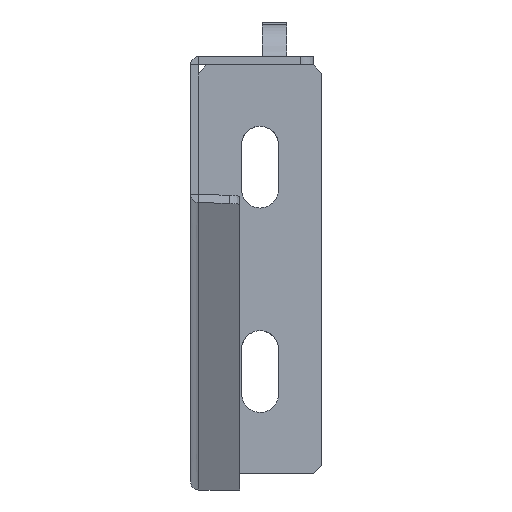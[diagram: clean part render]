
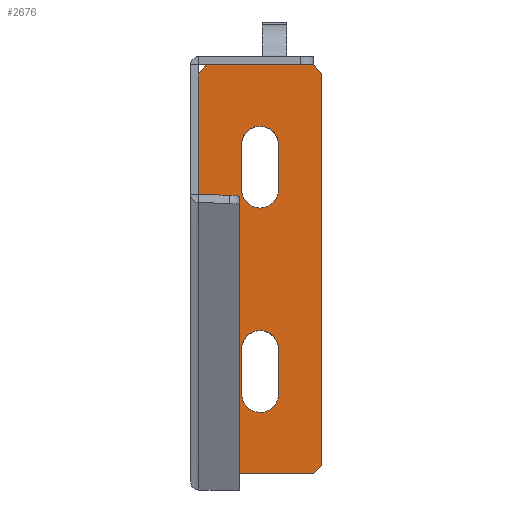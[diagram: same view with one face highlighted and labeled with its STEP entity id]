
A CAD part, front view. The second image highlights one B-rep face of the part: STEP entity #2676.
In plain terms, the highlighted planar face has unit normal (0, -1, 0).
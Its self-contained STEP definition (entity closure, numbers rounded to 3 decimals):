
#29=FACE_BOUND($,#3055,.T.);
#30=FACE_BOUND($,#3056,.T.);
#708=(
BOUNDED_CURVE()
B_SPLINE_CURVE(2,(#15400,#15401,#15402,#15403,#15404,#15405,#15406,#15407,
#15408,#15409,#15410,#15411,#15412),.UNSPECIFIED.,.T.,.F.)
B_SPLINE_CURVE_WITH_KNOTS((3,2,2,2,2,2,3),(-39.274,-32.206,
-25.137,-14.137,-7.069,0.,11.),.UNSPECIFIED.)
CURVE()
GEOMETRIC_REPRESENTATION_ITEM()
RATIONAL_B_SPLINE_CURVE((1.,0.707,1.,0.707,1.,1.,
1.,0.707,1.,0.707,1.,1.,1.))
REPRESENTATION_ITEM($)
);
#709=(
BOUNDED_CURVE()
B_SPLINE_CURVE(2,(#15413,#15414,#15415,#15416,#15417,#15418,#15419,#15420,
#15421,#15422,#15423,#15424,#15425),.UNSPECIFIED.,.T.,.F.)
B_SPLINE_CURVE_WITH_KNOTS((3,2,2,2,2,2,3),(-39.274,-32.206,
-25.137,-14.137,-7.069,0.,11.),.UNSPECIFIED.)
CURVE()
GEOMETRIC_REPRESENTATION_ITEM()
RATIONAL_B_SPLINE_CURVE((1.,0.707,1.,0.707,1.,1.,
1.,0.707,1.,0.707,1.,1.,1.))
REPRESENTATION_ITEM($)
);
#2676=ADVANCED_FACE($,(#2856,#29,#30),#6049,.T.);
#2856=FACE_OUTER_BOUND($,#3054,.T.);
#3054=EDGE_LOOP($,(#4009,#4010,#4011,#4012,#4013,#4014,#4015,#4016));
#3055=EDGE_LOOP($,(#4017));
#3056=EDGE_LOOP($,(#4018));
#4009=ORIENTED_EDGE($,*,*,#4993,.T.);
#4010=ORIENTED_EDGE($,*,*,#5002,.T.);
#4011=ORIENTED_EDGE($,*,*,#5001,.T.);
#4012=ORIENTED_EDGE($,*,*,#5000,.T.);
#4013=ORIENTED_EDGE($,*,*,#4999,.T.);
#4014=ORIENTED_EDGE($,*,*,#4998,.T.);
#4015=ORIENTED_EDGE($,*,*,#4997,.T.);
#4016=ORIENTED_EDGE($,*,*,#4996,.T.);
#4017=ORIENTED_EDGE($,*,*,#4994,.T.);
#4018=ORIENTED_EDGE($,*,*,#4995,.T.);
#4993=EDGE_CURVE($,#5973,#5982,#6454,.T.);
#4994=EDGE_CURVE($,#5974,#5974,#708,.T.);
#4995=EDGE_CURVE($,#5975,#5975,#709,.T.);
#4996=EDGE_CURVE($,#5976,#5973,#6455,.T.);
#4997=EDGE_CURVE($,#5977,#5976,#6456,.T.);
#4998=EDGE_CURVE($,#5978,#5977,#6457,.T.);
#4999=EDGE_CURVE($,#5979,#5978,#6458,.T.);
#5000=EDGE_CURVE($,#5980,#5979,#6459,.T.);
#5001=EDGE_CURVE($,#5981,#5980,#6460,.T.);
#5002=EDGE_CURVE($,#5982,#5981,#6461,.T.);
#5973=VERTEX_POINT($,#15441);
#5974=VERTEX_POINT($,#15442);
#5975=VERTEX_POINT($,#15443);
#5976=VERTEX_POINT($,#15444);
#5977=VERTEX_POINT($,#15445);
#5978=VERTEX_POINT($,#15446);
#5979=VERTEX_POINT($,#15447);
#5980=VERTEX_POINT($,#15448);
#5981=VERTEX_POINT($,#15449);
#5982=VERTEX_POINT($,#15450);
#6049=PLANE($,#6542);
#6454=B_SPLINE_CURVE_WITH_KNOTS($,1,(#15398,#15399),.UNSPECIFIED.,.F.,.F.,
(2,2),(0.,2.828),.UNSPECIFIED.);
#6455=B_SPLINE_CURVE_WITH_KNOTS($,1,(#15426,#15427),.UNSPECIFIED.,.F.,.F.,
(2,2),(229.314,255.314),.UNSPECIFIED.);
#6456=B_SPLINE_CURVE_WITH_KNOTS($,1,(#15428,#15429),.UNSPECIFIED.,.F.,.F.,
(2,2),(226.485,229.314),.UNSPECIFIED.);
#6457=B_SPLINE_CURVE_WITH_KNOTS($,1,(#15430,#15431),.UNSPECIFIED.,.F.,.F.,
(2,2),(130.485,226.485),.UNSPECIFIED.);
#6458=B_SPLINE_CURVE_WITH_KNOTS($,1,(#15432,#15433),.UNSPECIFIED.,.F.,.F.,
(2,2),(127.657,130.485),.UNSPECIFIED.);
#6459=B_SPLINE_CURVE_WITH_KNOTS($,1,(#15434,#15435),.UNSPECIFIED.,.F.,.F.,
(2,2),(101.657,127.657),.UNSPECIFIED.);
#6460=B_SPLINE_CURVE_WITH_KNOTS($,1,(#15436,#15437),.UNSPECIFIED.,.F.,.F.,
(2,2),(98.828,101.657),.UNSPECIFIED.);
#6461=B_SPLINE_CURVE_WITH_KNOTS($,1,(#15438,#15439),.UNSPECIFIED.,.F.,.F.,
(2,2),(2.828,98.828),.UNSPECIFIED.);
#6542=AXIS2_PLACEMENT_3D($,#15440,#6592,$);
#6592=DIRECTION($,(0.,-1.,0.));
#15398=CARTESIAN_POINT($,(-12.,-5.,-2.));
#15399=CARTESIAN_POINT($,(-14.,-5.,-4.));
#15400=CARTESIAN_POINT($,(5.5,-5.,-82.5));
#15401=CARTESIAN_POINT($,(5.5,-5.,-87.));
#15402=CARTESIAN_POINT($,(1.,-5.,-87.));
#15403=CARTESIAN_POINT($,(-3.5,-5.,-87.));
#15404=CARTESIAN_POINT($,(-3.5,-5.,-82.5));
#15405=CARTESIAN_POINT($,(-3.5,-5.,-77.));
#15406=CARTESIAN_POINT($,(-3.5,-5.,-71.5));
#15407=CARTESIAN_POINT($,(-3.5,-5.,-67.));
#15408=CARTESIAN_POINT($,(1.,-5.,-67.));
#15409=CARTESIAN_POINT($,(5.5,-5.,-67.));
#15410=CARTESIAN_POINT($,(5.5,-5.,-71.5));
#15411=CARTESIAN_POINT($,(5.5,-5.,-77.));
#15412=CARTESIAN_POINT($,(5.5,-5.,-82.5));
#15413=CARTESIAN_POINT($,(5.5,-5.,-32.5));
#15414=CARTESIAN_POINT($,(5.5,-5.,-37.));
#15415=CARTESIAN_POINT($,(1.,-5.,-37.));
#15416=CARTESIAN_POINT($,(-3.5,-5.,-37.));
#15417=CARTESIAN_POINT($,(-3.5,-5.,-32.5));
#15418=CARTESIAN_POINT($,(-3.5,-5.,-27.));
#15419=CARTESIAN_POINT($,(-3.5,-5.,-21.5));
#15420=CARTESIAN_POINT($,(-3.5,-5.,-17.));
#15421=CARTESIAN_POINT($,(1.,-5.,-17.));
#15422=CARTESIAN_POINT($,(5.5,-5.,-17.));
#15423=CARTESIAN_POINT($,(5.5,-5.,-21.5));
#15424=CARTESIAN_POINT($,(5.5,-5.,-27.));
#15425=CARTESIAN_POINT($,(5.5,-5.,-32.5));
#15426=CARTESIAN_POINT($,(14.,-5.,-2.));
#15427=CARTESIAN_POINT($,(-12.,-5.,-2.));
#15428=CARTESIAN_POINT($,(16.,-5.,-4.));
#15429=CARTESIAN_POINT($,(14.,-5.,-2.));
#15430=CARTESIAN_POINT($,(16.,-5.,-100.));
#15431=CARTESIAN_POINT($,(16.,-5.,-4.));
#15432=CARTESIAN_POINT($,(14.,-5.,-102.));
#15433=CARTESIAN_POINT($,(16.,-5.,-100.));
#15434=CARTESIAN_POINT($,(-12.,-5.,-102.));
#15435=CARTESIAN_POINT($,(14.,-5.,-102.));
#15436=CARTESIAN_POINT($,(-14.,-5.,-100.));
#15437=CARTESIAN_POINT($,(-12.,-5.,-102.));
#15438=CARTESIAN_POINT($,(-14.,-5.,-4.));
#15439=CARTESIAN_POINT($,(-14.,-5.,-100.));
#15440=CARTESIAN_POINT($,(-14.,-5.,-102.));
#15441=CARTESIAN_POINT($,(-12.,-5.,-2.));
#15442=CARTESIAN_POINT($,(5.5,-5.,-82.5));
#15443=CARTESIAN_POINT($,(5.5,-5.,-32.5));
#15444=CARTESIAN_POINT($,(14.,-5.,-2.));
#15445=CARTESIAN_POINT($,(16.,-5.,-4.));
#15446=CARTESIAN_POINT($,(16.,-5.,-100.));
#15447=CARTESIAN_POINT($,(14.,-5.,-102.));
#15448=CARTESIAN_POINT($,(-12.,-5.,-102.));
#15449=CARTESIAN_POINT($,(-14.,-5.,-100.));
#15450=CARTESIAN_POINT($,(-14.,-5.,-4.));
